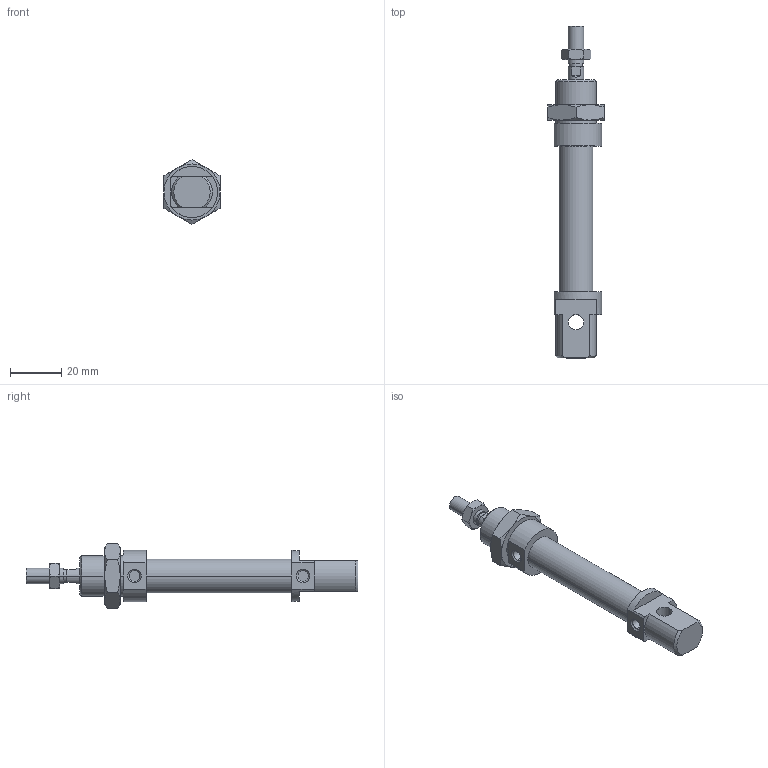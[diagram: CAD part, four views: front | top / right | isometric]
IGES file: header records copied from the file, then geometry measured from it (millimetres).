
Global section: file name: No Iges File Name specified; native system: Autodesk Inventor 2010; preprocessor: AutoDesk Inventor Iges Exporter R2010; author: rivolro1; date: 20090604.093136; units: millimetre
Bounding box: 22 x 130 x 25.4 mm (x, y, z)
Volume: 20852.5 mm3; surface area: 10184.5 mm2
Topology: 4 solids, 4 shells, 107 faces, 236 edges, 144 vertices
Faces by surface type: plane 39, cone 28, bspline 20, cylinder 14, revolution 6
